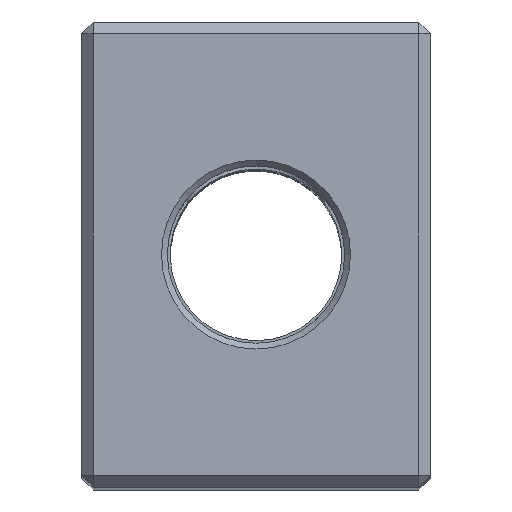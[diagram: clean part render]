
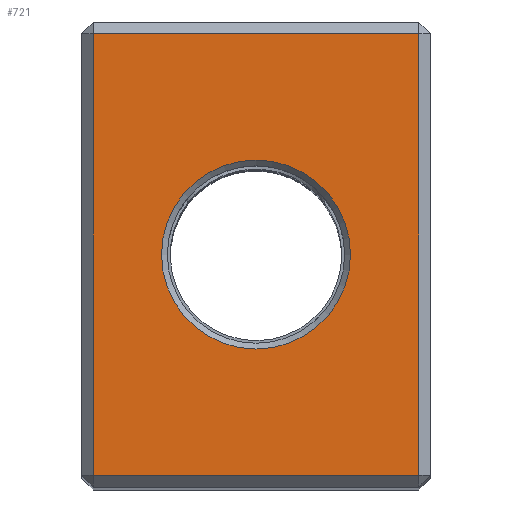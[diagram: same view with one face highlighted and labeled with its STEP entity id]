
A CAD part, top view. The second image highlights one B-rep face of the part: STEP entity #721.
In plain terms, the highlighted planar face has unit normal (0, 0, 1).
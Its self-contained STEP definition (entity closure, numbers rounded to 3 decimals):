
#36=FACE_BOUND('',#124,.T.);
#45=PLANE('',#796);
#76=FACE_OUTER_BOUND('',#123,.T.);
#123=EDGE_LOOP('',(#527,#528,#529,#530));
#124=EDGE_LOOP('',(#531));
#179=LINE('',#1158,#246);
#180=LINE('',#1160,#247);
#181=LINE('',#1162,#248);
#182=LINE('',#1163,#249);
#246=VECTOR('',#895,10.);
#247=VECTOR('',#896,10.);
#248=VECTOR('',#897,10.);
#249=VECTOR('',#898,10.);
#310=CIRCLE('',#793,8.125);
#348=VERTEX_POINT('',#1148);
#351=VERTEX_POINT('',#1156);
#352=VERTEX_POINT('',#1157);
#353=VERTEX_POINT('',#1159);
#354=VERTEX_POINT('',#1161);
#412=EDGE_CURVE('',#348,#348,#310,.T.);
#416=EDGE_CURVE('',#351,#352,#179,.T.);
#417=EDGE_CURVE('',#353,#351,#180,.T.);
#418=EDGE_CURVE('',#354,#353,#181,.T.);
#419=EDGE_CURVE('',#352,#354,#182,.T.);
#527=ORIENTED_EDGE('',*,*,#416,.F.);
#528=ORIENTED_EDGE('',*,*,#417,.F.);
#529=ORIENTED_EDGE('',*,*,#418,.F.);
#530=ORIENTED_EDGE('',*,*,#419,.F.);
#531=ORIENTED_EDGE('',*,*,#412,.F.);
#721=ADVANCED_FACE('',(#76,#36),#45,.T.);
#793=AXIS2_PLACEMENT_3D('',#1149,#886,#887);
#796=AXIS2_PLACEMENT_3D('',#1155,#893,#894);
#886=DIRECTION('center_axis',(0.,0.,1.));
#887=DIRECTION('ref_axis',(-1.,0.,0.));
#893=DIRECTION('center_axis',(0.,0.,1.));
#894=DIRECTION('ref_axis',(1.,0.,0.));
#895=DIRECTION('',(0.,1.,0.));
#896=DIRECTION('',(-1.,0.,0.));
#897=DIRECTION('',(0.,-1.,0.));
#898=DIRECTION('',(1.,0.,0.));
#1148=CARTESIAN_POINT('',(8.125,0.,72.));
#1149=CARTESIAN_POINT('Origin',(0.,0.,72.));
#1155=CARTESIAN_POINT('Origin',(0.,0.,
72.));
#1156=CARTESIAN_POINT('',(-14.,-19.,72.));
#1157=CARTESIAN_POINT('',(-14.,19.,72.));
#1158=CARTESIAN_POINT('',(-14.,10.,72.));
#1159=CARTESIAN_POINT('',(14.,-19.,72.));
#1160=CARTESIAN_POINT('',(-7.5,-19.,72.));
#1161=CARTESIAN_POINT('',(14.,19.,72.));
#1162=CARTESIAN_POINT('',(14.,-10.,72.));
#1163=CARTESIAN_POINT('',(7.5,19.,72.));
